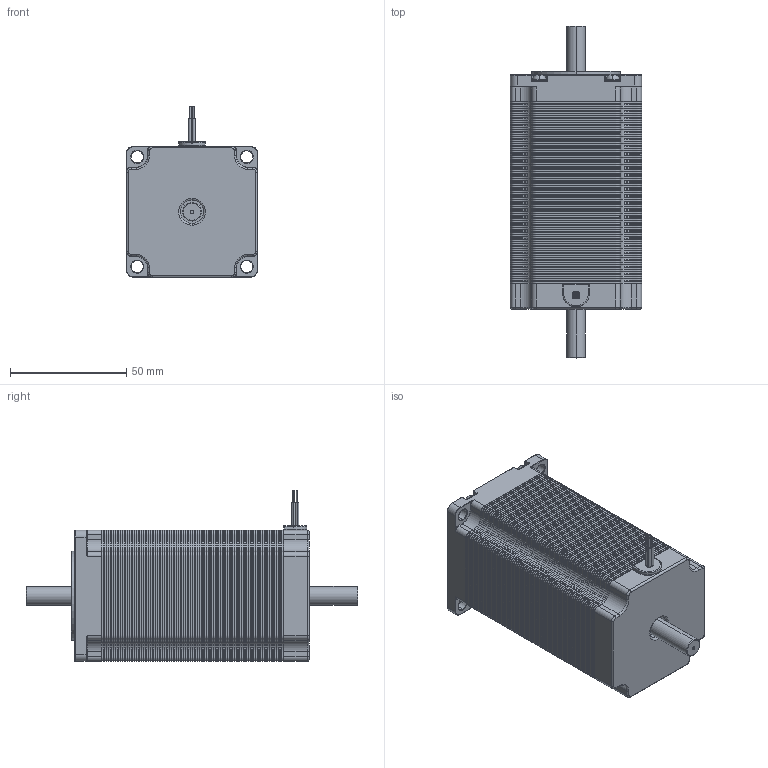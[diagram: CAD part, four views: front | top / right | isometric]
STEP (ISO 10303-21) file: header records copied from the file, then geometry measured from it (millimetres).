
FILE_DESCRIPTION (( 'STEP AP214' ), '1' );
FILE_NAME ('Nema 23 Stepper Motor length 102mm_DS_8mm.STEP', '2020-11-11T12:10:35', ( 'Moofasta' ), ( '' ), 'SwSTEP 2.0', 'SolidWorks 2020', '' );
FILE_SCHEMA (( 'AUTOMOTIVE_DESIGN' ));
Length unit declared in the file: millimetre
Products named in the file (1): Nema 23 Stepper Motor length 102mm_DS_8mm
Bounding box: 56.3 x 142.5 x 73.3 mm (x, y, z)
Volume: 290988.9 mm3; surface area: 478522.5 mm2
Topology: 94 solids, 94 shells, 6248 faces, 14196 edges, 8122 vertices
Faces by surface type: plane 3134, cone 1900, cylinder 1100, torus 94, sphere 12, bspline 8
Entity records: 235225 total; most frequent: DIRECTION 30830, CARTESIAN_POINT 28995, ORIENTED_EDGE 28352, EDGE_CURVE 14176, AXIS2_PLACEMENT_3D 10485, VECTOR 9860, LINE 9860, VERTEX_POINT 8122
